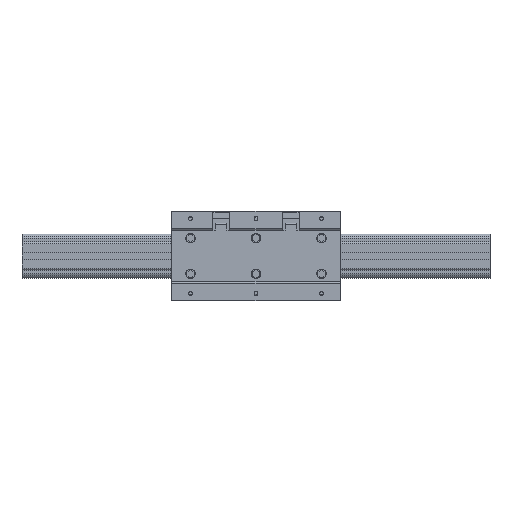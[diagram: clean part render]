
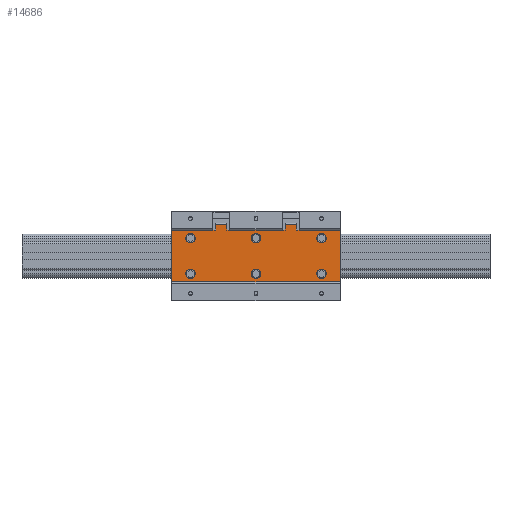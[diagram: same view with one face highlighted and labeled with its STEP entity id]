
A CAD part, top view. The second image highlights one B-rep face of the part: STEP entity #14686.
In plain terms, the highlighted planar face has unit normal (0, 0, 1).
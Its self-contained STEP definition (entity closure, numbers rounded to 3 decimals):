
#8312=CARTESIAN_POINT('',(155.0,-19.0,22.));
#8313=VERTEX_POINT('',#8312);
#8314=CARTESIAN_POINT('',(160.0,-19.0,22.));
#8315=DIRECTION('',(0.0,0.0,-1.0));
#8316=DIRECTION('',(-1.0,0.0,0.0));
#8317=AXIS2_PLACEMENT_3D('',#8314,#8315,#8316);
#8318=CIRCLE('',#8317,5.0);
#8319=EDGE_CURVE('',#8313,#8313,#8318,.T.);
#8408=CARTESIAN_POINT('',(85.0,-19.0,22.));
#8409=VERTEX_POINT('',#8408);
#8410=CARTESIAN_POINT('',(90.0,-19.0,22.));
#8411=DIRECTION('',(0.0,0.0,-1.0));
#8412=DIRECTION('',(-1.0,0.0,0.0));
#8413=AXIS2_PLACEMENT_3D('',#8410,#8411,#8412);
#8414=CIRCLE('',#8413,5.0);
#8415=EDGE_CURVE('',#8409,#8409,#8414,.T.);
#8504=CARTESIAN_POINT('',(15.0,-19.0,22.));
#8505=VERTEX_POINT('',#8504);
#8506=CARTESIAN_POINT('',(20.0,-19.0,22.));
#8507=DIRECTION('',(0.0,0.0,-1.0));
#8508=DIRECTION('',(-1.0,0.0,0.0));
#8509=AXIS2_PLACEMENT_3D('',#8506,#8507,#8508);
#8510=CIRCLE('',#8509,5.0);
#8511=EDGE_CURVE('',#8505,#8505,#8510,.T.);
#8600=CARTESIAN_POINT('',(155.0,19.0,22.));
#8601=VERTEX_POINT('',#8600);
#8602=CARTESIAN_POINT('',(160.0,19.0,22.));
#8603=DIRECTION('',(0.0,0.0,-1.0));
#8604=DIRECTION('',(-1.0,0.0,0.0));
#8605=AXIS2_PLACEMENT_3D('',#8602,#8603,#8604);
#8606=CIRCLE('',#8605,5.0);
#8607=EDGE_CURVE('',#8601,#8601,#8606,.T.);
#8696=CARTESIAN_POINT('',(85.0,19.0,22.));
#8697=VERTEX_POINT('',#8696);
#8698=CARTESIAN_POINT('',(90.0,19.0,22.));
#8699=DIRECTION('',(0.0,0.0,-1.0));
#8700=DIRECTION('',(-1.0,0.0,0.0));
#8701=AXIS2_PLACEMENT_3D('',#8698,#8699,#8700);
#8702=CIRCLE('',#8701,5.0);
#8703=EDGE_CURVE('',#8697,#8697,#8702,.T.);
#8978=CARTESIAN_POINT('',(15.0,19.0,22.));
#8979=VERTEX_POINT('',#8978);
#8980=CARTESIAN_POINT('',(20.0,19.0,22.));
#8981=DIRECTION('',(0.0,0.0,-1.0));
#8982=DIRECTION('',(-1.0,0.0,0.0));
#8983=AXIS2_PLACEMENT_3D('',#8980,#8981,#8982);
#8984=CIRCLE('',#8983,5.0);
#8985=EDGE_CURVE('',#8979,#8979,#8984,.T.);
#13139=CARTESIAN_POINT('',(121.,27.7,22.));
#13140=VERTEX_POINT('',#13139);
#13147=CARTESIAN_POINT('',(121.,34.,22.));
#13148=VERTEX_POINT('',#13147);
#13149=CARTESIAN_POINT('',(121.,34.,22.));
#13150=DIRECTION('',(0.0,-1.0,0.0));
#13151=VECTOR('',#13150,6.3);
#13152=LINE('',#13149,#13151);
#13153=EDGE_CURVE('',#13148,#13140,#13152,.T.);
#13226=CARTESIAN_POINT('',(133.0,34.,22.));
#13227=VERTEX_POINT('',#13226);
#13244=CARTESIAN_POINT('',(121.,34.,22.));
#13245=DIRECTION('',(1.0,0.0,0.0));
#13246=VECTOR('',#13245,12.);
#13247=LINE('',#13244,#13246);
#13248=EDGE_CURVE('',#13148,#13227,#13247,.T.);
#13303=CARTESIAN_POINT('',(133.0,27.7,22.));
#13304=VERTEX_POINT('',#13303);
#13305=CARTESIAN_POINT('',(133.0,27.7,22.));
#13306=DIRECTION('',(0.0,1.0,0.0));
#13307=VECTOR('',#13306,6.3);
#13308=LINE('',#13305,#13307);
#13309=EDGE_CURVE('',#13304,#13227,#13308,.T.);
#13343=CARTESIAN_POINT('',(118.0,27.7,22.));
#13344=VERTEX_POINT('',#13343);
#13351=CARTESIAN_POINT('',(118.0,27.7,22.));
#13352=DIRECTION('',(1.0,0.0,0.0));
#13353=VECTOR('',#13352,3.);
#13354=LINE('',#13351,#13353);
#13355=EDGE_CURVE('',#13344,#13140,#13354,.T.);
#13366=CARTESIAN_POINT('',(136.0,27.7,22.));
#13367=VERTEX_POINT('',#13366);
#13368=CARTESIAN_POINT('',(133.0,27.7,22.));
#13369=DIRECTION('',(1.0,0.0,0.0));
#13370=VECTOR('',#13369,3.0);
#13371=LINE('',#13368,#13370);
#13372=EDGE_CURVE('',#13304,#13367,#13371,.T.);
#13579=CARTESIAN_POINT('',(180.0,27.7,22.));
#13580=VERTEX_POINT('',#13579);
#13581=CARTESIAN_POINT('',(136.0,27.7,22.));
#13582=DIRECTION('',(1.0,0.0,0.0));
#13583=VECTOR('',#13582,44.0);
#13584=LINE('',#13581,#13583);
#13585=EDGE_CURVE('',#13367,#13580,#13584,.T.);
#13619=CARTESIAN_POINT('',(62.0,27.7,22.));
#13620=VERTEX_POINT('',#13619);
#13628=CARTESIAN_POINT('',(62.0,27.7,22.));
#13629=DIRECTION('',(1.0,0.0,0.0));
#13630=VECTOR('',#13629,56.0);
#13631=LINE('',#13628,#13630);
#13632=EDGE_CURVE('',#13620,#13344,#13631,.T.);
#14162=CARTESIAN_POINT('',(47.,27.7,22.));
#14163=VERTEX_POINT('',#14162);
#14170=CARTESIAN_POINT('',(47.,34.,22.));
#14171=VERTEX_POINT('',#14170);
#14172=CARTESIAN_POINT('',(47.,34.,22.));
#14173=DIRECTION('',(0.0,-1.0,0.0));
#14174=VECTOR('',#14173,6.3);
#14175=LINE('',#14172,#14174);
#14176=EDGE_CURVE('',#14171,#14163,#14175,.T.);
#14242=CARTESIAN_POINT('',(59.,34.,22.));
#14243=VERTEX_POINT('',#14242);
#14260=CARTESIAN_POINT('',(47.,34.,22.));
#14261=DIRECTION('',(1.0,0.0,0.0));
#14262=VECTOR('',#14261,12.0);
#14263=LINE('',#14260,#14262);
#14264=EDGE_CURVE('',#14171,#14243,#14263,.T.);
#14319=CARTESIAN_POINT('',(59.,27.7,22.));
#14320=VERTEX_POINT('',#14319);
#14321=CARTESIAN_POINT('',(59.,27.7,22.));
#14322=DIRECTION('',(0.0,1.0,0.0));
#14323=VECTOR('',#14322,6.3);
#14324=LINE('',#14321,#14323);
#14325=EDGE_CURVE('',#14320,#14243,#14324,.T.);
#14345=CARTESIAN_POINT('',(44.,27.7,22.));
#14346=VERTEX_POINT('',#14345);
#14353=CARTESIAN_POINT('',(44.,27.7,22.));
#14354=DIRECTION('',(1.0,0.0,0.0));
#14355=VECTOR('',#14354,3.0);
#14356=LINE('',#14353,#14355);
#14357=EDGE_CURVE('',#14346,#14163,#14356,.T.);
#14368=CARTESIAN_POINT('',(59.,27.7,22.));
#14369=DIRECTION('',(1.0,0.0,0.0));
#14370=VECTOR('',#14369,3.);
#14371=LINE('',#14368,#14370);
#14372=EDGE_CURVE('',#14320,#13620,#14371,.T.);
#14600=CARTESIAN_POINT('',(180.0,-27.7,22.));
#14601=VERTEX_POINT('',#14600);
#14609=CARTESIAN_POINT('',(0.0,-27.7,22.));
#14610=VERTEX_POINT('',#14609);
#14611=CARTESIAN_POINT('',(0.0,-27.7,22.));
#14612=DIRECTION('',(1.0,0.0,0.0));
#14613=VECTOR('',#14612,180.0);
#14614=LINE('',#14611,#14613);
#14615=EDGE_CURVE('',#14610,#14601,#14614,.T.);
#14628=CARTESIAN_POINT('',(0.0,-27.7,22.));
#14629=DIRECTION('',(0.0,0.0,1.0));
#14630=DIRECTION('',(1.0,0.0,0.0));
#14631=AXIS2_PLACEMENT_3D('',#14628,#14629,#14630);
#14632=PLANE('',#14631);
#14633=CARTESIAN_POINT('',(180.0,-27.7,22.));
#14634=DIRECTION('',(0.0,1.0,0.0));
#14635=VECTOR('',#14634,55.4);
#14636=LINE('',#14633,#14635);
#14637=EDGE_CURVE('',#14601,#13580,#14636,.T.);
#14638=ORIENTED_EDGE('',*,*,#14637,.T.);
#14639=ORIENTED_EDGE('',*,*,#13585,.F.);
#14640=ORIENTED_EDGE('',*,*,#13372,.F.);
#14641=ORIENTED_EDGE('',*,*,#13309,.T.);
#14642=ORIENTED_EDGE('',*,*,#13248,.F.);
#14643=ORIENTED_EDGE('',*,*,#13153,.T.);
#14644=ORIENTED_EDGE('',*,*,#13355,.F.);
#14645=ORIENTED_EDGE('',*,*,#13632,.F.);
#14646=ORIENTED_EDGE('',*,*,#14372,.F.);
#14647=ORIENTED_EDGE('',*,*,#14325,.T.);
#14648=ORIENTED_EDGE('',*,*,#14264,.F.);
#14649=ORIENTED_EDGE('',*,*,#14176,.T.);
#14650=ORIENTED_EDGE('',*,*,#14357,.F.);
#14651=CARTESIAN_POINT('',(0.0,27.7,22.));
#14652=VERTEX_POINT('',#14651);
#14653=CARTESIAN_POINT('',(0.0,27.7,22.));
#14654=DIRECTION('',(1.0,0.0,0.0));
#14655=VECTOR('',#14654,44.);
#14656=LINE('',#14653,#14655);
#14657=EDGE_CURVE('',#14652,#14346,#14656,.T.);
#14658=ORIENTED_EDGE('',*,*,#14657,.F.);
#14659=CARTESIAN_POINT('',(0.0,27.7,22.));
#14660=DIRECTION('',(0.0,-1.0,0.0));
#14661=VECTOR('',#14660,55.4);
#14662=LINE('',#14659,#14661);
#14663=EDGE_CURVE('',#14652,#14610,#14662,.T.);
#14664=ORIENTED_EDGE('',*,*,#14663,.T.);
#14665=ORIENTED_EDGE('',*,*,#14615,.T.);
#14666=EDGE_LOOP('',(#14638,#14639,#14640,#14641,#14642,#14643,#14644,#14645,#14646,#14647,#14648,#14649,#14650,#14658,#14664,#14665));
#14667=FACE_OUTER_BOUND('',#14666,.T.);
#14668=ORIENTED_EDGE('',*,*,#8319,.T.);
#14669=EDGE_LOOP('',(#14668));
#14670=FACE_BOUND('',#14669,.T.);
#14671=ORIENTED_EDGE('',*,*,#8415,.T.);
#14672=EDGE_LOOP('',(#14671));
#14673=FACE_BOUND('',#14672,.T.);
#14674=ORIENTED_EDGE('',*,*,#8511,.T.);
#14675=EDGE_LOOP('',(#14674));
#14676=FACE_BOUND('',#14675,.T.);
#14677=ORIENTED_EDGE('',*,*,#8607,.T.);
#14678=EDGE_LOOP('',(#14677));
#14679=FACE_BOUND('',#14678,.T.);
#14680=ORIENTED_EDGE('',*,*,#8703,.T.);
#14681=EDGE_LOOP('',(#14680));
#14682=FACE_BOUND('',#14681,.T.);
#14683=ORIENTED_EDGE('',*,*,#8985,.T.);
#14684=EDGE_LOOP('',(#14683));
#14685=FACE_BOUND('',#14684,.T.);
#14686=ADVANCED_FACE('',(#14667,#14670,#14673,#14676,#14679,#14682,#14685),#14632,.T.);
